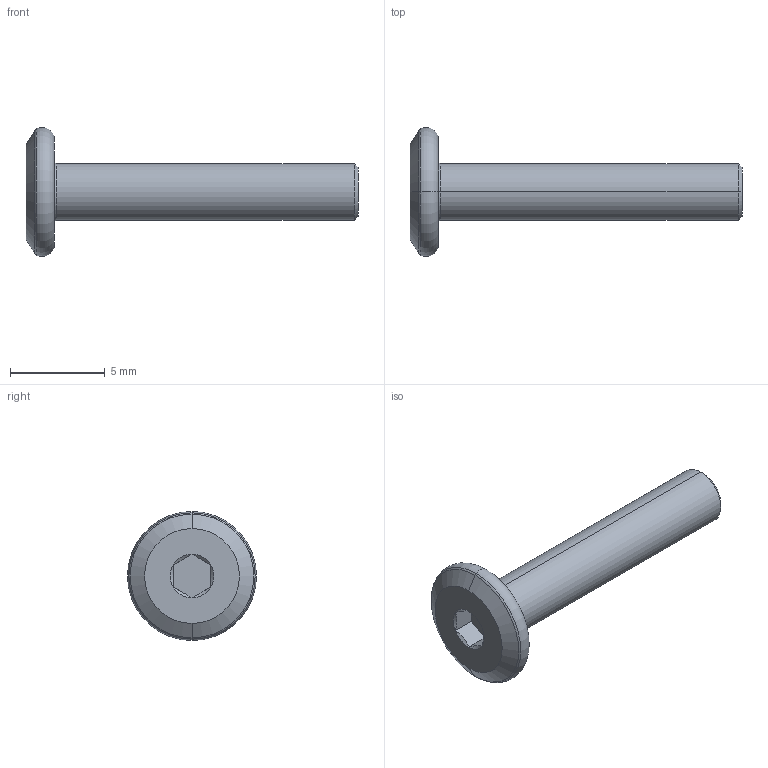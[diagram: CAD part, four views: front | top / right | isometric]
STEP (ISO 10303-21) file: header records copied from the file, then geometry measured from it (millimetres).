
FILE_DESCRIPTION (( 'STEP AP203' ), '1' );
FILE_NAME ('LGD-304D-M3x16.STEP', '2026-08-13T04:09:18', ( '' ), ( '' ), 'SwSTEP 2.0', 'SolidWorks 2020', '' );
FILE_SCHEMA (( 'CONFIG_CONTROL_DESIGN' ));
Length unit declared in the file: millimetre
Products named in the file (1): LGD-304D-M3x16
Bounding box: 17.5 x 6.8 x 6.8 mm (x, y, z)
Volume: 156.2 mm3; surface area: 245.8 mm2
Topology: 1 solids, 1 shells, 28 faces, 52 edges, 28 vertices
Faces by surface type: cone 10, plane 10, torus 6, cylinder 2
Entity records: 779 total; most frequent: CARTESIAN_POINT 139, DIRECTION 132, ORIENTED_EDGE 104, AXIS2_PLACEMENT_3D 57, EDGE_CURVE 52, EDGE_LOOP 30, VERTEX_POINT 28, ADVANCED_FACE 28
